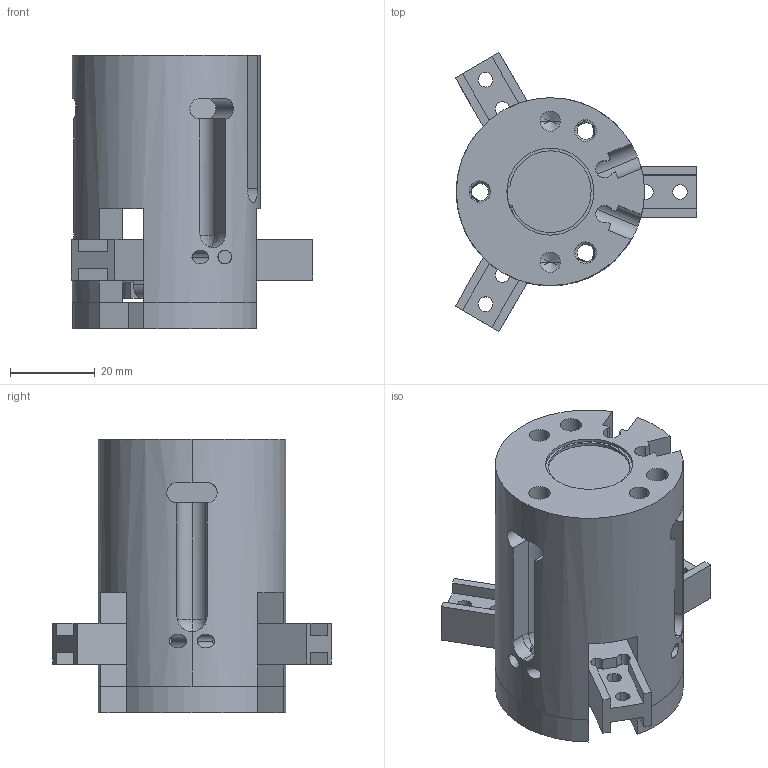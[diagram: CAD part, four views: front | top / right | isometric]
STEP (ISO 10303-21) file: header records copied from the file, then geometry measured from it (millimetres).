
FILE_DESCRIPTION (( 'STEP AP203' ), '1' );
FILE_NAME ('AGA-23 OPEN in IN.STEP', '2014-11-04T22:14:11', ( 'setup' ), ( '' ), 'SwSTEP 2.0', 'SolidWorks 2013', '' );
FILE_SCHEMA (( 'CONFIG_CONTROL_DESIGN' ));
Length unit declared in the file: inch
Products named in the file (12): AGA-23 LONG PIN; 2005; AGA-23 OPEN in IN; 2307; AGA-2007; 2306; snap ring; AGA-23 SHORT PIN; 2004; 2301; 2003; 2302
Assembly tree (22 placements, depth 2):
  AGA-23 OPEN in IN
    2301
    2302
    2005
    2307
    AGA-2007
    2306
    snap ring
    AGA-23 SHORT PIN  x6
    2004  x3
    2003  x3
    AGA-23 LONG PIN  x3
Bounding box: 57.1 x 65.93 x 64.77 mm (x, y, z)
Volume: 68641.5 mm3; surface area: 36399 mm2
Topology: 22 solids, 22 shells, 464 faces, 1182 edges, 767 vertices
Faces by surface type: cylinder 249, plane 185, cone 18, torus 6, bspline 6
Entity records: 13500 total; most frequent: CARTESIAN_POINT 3432, DIRECTION 1864, ORIENTED_EDGE 1700, EDGE_CURVE 850, AXIS2_PLACEMENT_3D 729, VERTEX_POINT 555, EDGE_LOOP 419, LINE 406
